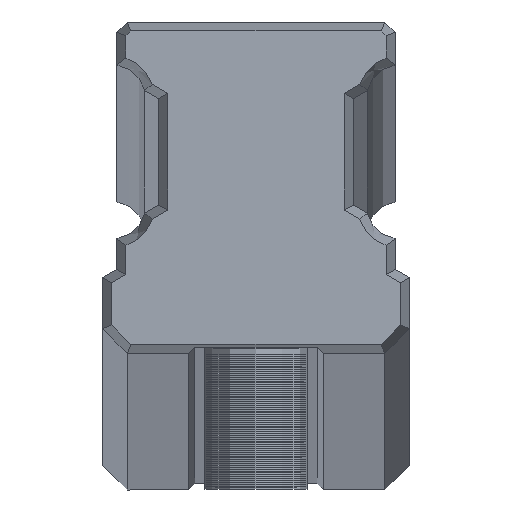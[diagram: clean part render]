
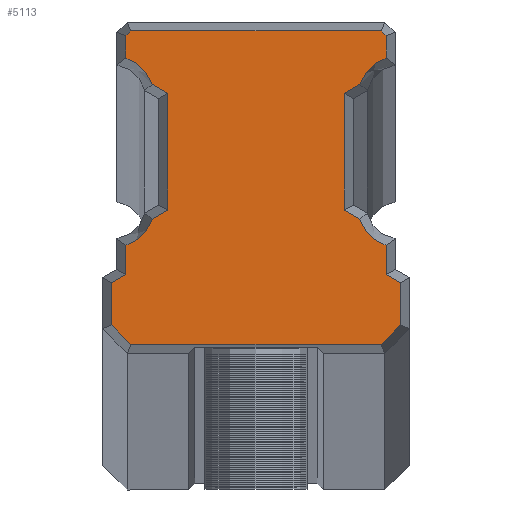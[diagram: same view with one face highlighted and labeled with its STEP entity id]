
A CAD part, top view. The second image highlights one B-rep face of the part: STEP entity #5113.
In plain terms, the highlighted planar face has unit normal (0, 0, 1).
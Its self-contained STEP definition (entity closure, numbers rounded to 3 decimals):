
#909=DIRECTION('',(1.,0.,0.));
#910=VECTOR('',#909,12.235);
#911=CARTESIAN_POINT('',(-6.117,0.441,0.));
#912=LINE('',#911,#910);
#913=DIRECTION('',(0.707,-0.707,0.));
#914=VECTOR('',#913,1.332);
#915=CARTESIAN_POINT('',(-7.059,1.383,0.));
#916=LINE('',#915,#914);
#917=DIRECTION('',(0.,-1.,0.));
#918=VECTOR('',#917,2.059);
#919=CARTESIAN_POINT('',(-7.059,3.441,0.));
#920=LINE('',#919,#918);
#921=DIRECTION('',(-0.866,-0.5,0.));
#922=VECTOR('',#921,0.808);
#923=CARTESIAN_POINT('',(-6.359,3.845,0.));
#924=LINE('',#923,#922);
#925=DIRECTION('',(0.,-1.,0.));
#926=VECTOR('',#925,1.426);
#927=CARTESIAN_POINT('',(-6.359,5.271,0.));
#928=LINE('',#927,#926);
#929=CARTESIAN_POINT('',(-7.046,7.246,0.));
#930=DIRECTION('',(0.,0.,-1.));
#931=DIRECTION('',(0.944,-0.331,0.));
#932=AXIS2_PLACEMENT_3D('',#929,#930,#931);
#934=DIRECTION('',(-0.866,-0.5,0.));
#935=VECTOR('',#934,0.882);
#936=CARTESIAN_POINT('',(-4.309,6.995,0.));
#937=LINE('',#936,#935);
#938=DIRECTION('',(0.,-1.,0.));
#939=VECTOR('',#938,5.709);
#940=CARTESIAN_POINT('',(-4.309,12.705,0.));
#941=LINE('',#940,#939);
#942=DIRECTION('',(0.866,-0.5,0.));
#943=VECTOR('',#942,0.882);
#944=CARTESIAN_POINT('',(-5.073,13.145,0.));
#945=LINE('',#944,#943);
#946=CARTESIAN_POINT('',(-7.046,12.454,0.));
#947=DIRECTION('',(0.,0.,-1.));
#948=DIRECTION('',(0.328,0.945,0.));
#949=AXIS2_PLACEMENT_3D('',#946,#947,#948);
#951=DIRECTION('',(0.,-1.,0.));
#952=VECTOR('',#951,1.094);
#953=CARTESIAN_POINT('',(-6.359,15.522,0.));
#954=LINE('',#953,#952);
#955=DIRECTION('',(-0.707,-0.707,0.));
#956=VECTOR('',#955,0.335);
#957=CARTESIAN_POINT('',(-6.122,15.759,0.));
#958=LINE('',#957,#956);
#959=DIRECTION('',(-1.,0.,0.));
#960=VECTOR('',#959,12.245);
#961=CARTESIAN_POINT('',(6.122,15.759,0.));
#962=LINE('',#961,#960);
#963=DIRECTION('',(-0.707,0.707,0.));
#964=VECTOR('',#963,0.335);
#965=CARTESIAN_POINT('',(6.359,15.522,0.));
#966=LINE('',#965,#964);
#967=DIRECTION('',(0.,1.,0.));
#968=VECTOR('',#967,1.094);
#969=CARTESIAN_POINT('',(6.359,14.429,0.));
#970=LINE('',#969,#968);
#971=CARTESIAN_POINT('',(7.046,12.454,0.));
#972=DIRECTION('',(0.,0.,-1.));
#973=DIRECTION('',(-0.944,0.331,0.));
#974=AXIS2_PLACEMENT_3D('',#971,#972,#973);
#976=DIRECTION('',(0.866,0.5,0.));
#977=VECTOR('',#976,0.882);
#978=CARTESIAN_POINT('',(4.309,12.705,0.));
#979=LINE('',#978,#977);
#980=DIRECTION('',(0.,1.,0.));
#981=VECTOR('',#980,5.709);
#982=CARTESIAN_POINT('',(4.309,6.995,0.));
#983=LINE('',#982,#981);
#984=DIRECTION('',(-0.866,0.5,0.));
#985=VECTOR('',#984,0.882);
#986=CARTESIAN_POINT('',(5.073,6.555,0.));
#987=LINE('',#986,#985);
#988=CARTESIAN_POINT('',(7.046,7.246,0.));
#989=DIRECTION('',(0.,0.,-1.));
#990=DIRECTION('',(-0.328,-0.945,0.));
#991=AXIS2_PLACEMENT_3D('',#988,#989,#990);
#993=DIRECTION('',(0.,1.,0.));
#994=VECTOR('',#993,1.426);
#995=CARTESIAN_POINT('',(6.359,3.845,0.));
#996=LINE('',#995,#994);
#997=DIRECTION('',(-0.866,0.5,0.));
#998=VECTOR('',#997,0.808);
#999=CARTESIAN_POINT('',(7.059,3.441,0.));
#1000=LINE('',#999,#998);
#1001=DIRECTION('',(0.,1.,0.));
#1002=VECTOR('',#1001,2.059);
#1003=CARTESIAN_POINT('',(7.059,1.383,0.));
#1004=LINE('',#1003,#1002);
#1005=DIRECTION('',(0.707,0.707,0.));
#1006=VECTOR('',#1005,1.332);
#1007=CARTESIAN_POINT('',(6.117,0.441,0.));
#1008=LINE('',#1007,#1006);
#3537=CARTESIAN_POINT('',(-6.117,0.441,0.));
#3538=CARTESIAN_POINT('',(6.117,0.441,0.));
#3539=VERTEX_POINT('',#3537);
#3540=VERTEX_POINT('',#3538);
#3541=CARTESIAN_POINT('',(7.059,1.383,0.));
#3542=VERTEX_POINT('',#3541);
#3543=CARTESIAN_POINT('',(7.059,3.441,0.));
#3544=VERTEX_POINT('',#3543);
#3545=CARTESIAN_POINT('',(6.359,3.845,0.));
#3546=VERTEX_POINT('',#3545);
#3547=CARTESIAN_POINT('',(6.359,5.271,0.));
#3548=VERTEX_POINT('',#3547);
#3549=CARTESIAN_POINT('',(5.073,6.555,0.));
#3550=VERTEX_POINT('',#3549);
#3551=CARTESIAN_POINT('',(4.309,6.995,0.));
#3552=VERTEX_POINT('',#3551);
#3553=CARTESIAN_POINT('',(4.309,12.705,0.));
#3554=VERTEX_POINT('',#3553);
#3555=CARTESIAN_POINT('',(5.073,13.145,0.));
#3556=VERTEX_POINT('',#3555);
#3557=CARTESIAN_POINT('',(6.359,14.429,0.));
#3558=VERTEX_POINT('',#3557);
#3559=CARTESIAN_POINT('',(6.359,15.522,0.));
#3560=VERTEX_POINT('',#3559);
#3561=CARTESIAN_POINT('',(6.122,15.759,0.));
#3562=VERTEX_POINT('',#3561);
#3563=CARTESIAN_POINT('',(-6.122,15.759,0.));
#3564=VERTEX_POINT('',#3563);
#3565=CARTESIAN_POINT('',(-6.359,15.522,0.));
#3566=VERTEX_POINT('',#3565);
#3567=CARTESIAN_POINT('',(-6.359,14.429,0.));
#3568=VERTEX_POINT('',#3567);
#3569=CARTESIAN_POINT('',(-5.073,13.145,0.));
#3570=VERTEX_POINT('',#3569);
#3571=CARTESIAN_POINT('',(-4.309,12.705,0.));
#3572=VERTEX_POINT('',#3571);
#3573=CARTESIAN_POINT('',(-4.309,6.995,0.));
#3574=VERTEX_POINT('',#3573);
#3575=CARTESIAN_POINT('',(-5.073,6.555,0.));
#3576=VERTEX_POINT('',#3575);
#3577=CARTESIAN_POINT('',(-6.359,5.271,0.));
#3578=VERTEX_POINT('',#3577);
#3579=CARTESIAN_POINT('',(-6.359,3.845,0.));
#3580=VERTEX_POINT('',#3579);
#3581=CARTESIAN_POINT('',(-7.059,3.441,0.));
#3582=VERTEX_POINT('',#3581);
#3583=CARTESIAN_POINT('',(-7.059,1.383,0.));
#3584=VERTEX_POINT('',#3583);
#5059=CARTESIAN_POINT('',(0.,0.,0.));
#5060=DIRECTION('',(0.,0.,1.));
#5061=DIRECTION('',(1.,0.,0.));
#5062=AXIS2_PLACEMENT_3D('',#5059,#5060,#5061);
#5063=PLANE('',#5062);
#5065=ORIENTED_EDGE('',*,*,#5064,.F.);
#5067=ORIENTED_EDGE('',*,*,#5066,.F.);
#5069=ORIENTED_EDGE('',*,*,#5068,.F.);
#5071=ORIENTED_EDGE('',*,*,#5070,.F.);
#5073=ORIENTED_EDGE('',*,*,#5072,.F.);
#5075=ORIENTED_EDGE('',*,*,#5074,.F.);
#5077=ORIENTED_EDGE('',*,*,#5076,.F.);
#5079=ORIENTED_EDGE('',*,*,#5078,.F.);
#5081=ORIENTED_EDGE('',*,*,#5080,.F.);
#5083=ORIENTED_EDGE('',*,*,#5082,.F.);
#5084=ORIENTED_EDGE('',*,*,#5049,.F.);
#5086=ORIENTED_EDGE('',*,*,#5085,.F.);
#5088=ORIENTED_EDGE('',*,*,#5087,.F.);
#5090=ORIENTED_EDGE('',*,*,#5089,.F.);
#5092=ORIENTED_EDGE('',*,*,#5091,.F.);
#5094=ORIENTED_EDGE('',*,*,#5093,.F.);
#5096=ORIENTED_EDGE('',*,*,#5095,.F.);
#5098=ORIENTED_EDGE('',*,*,#5097,.F.);
#5100=ORIENTED_EDGE('',*,*,#5099,.F.);
#5102=ORIENTED_EDGE('',*,*,#5101,.F.);
#5104=ORIENTED_EDGE('',*,*,#5103,.F.);
#5106=ORIENTED_EDGE('',*,*,#5105,.F.);
#5108=ORIENTED_EDGE('',*,*,#5107,.F.);
#5110=ORIENTED_EDGE('',*,*,#5109,.F.);
#5111=EDGE_LOOP('',(#5065,#5067,#5069,#5071,#5073,#5075,#5077,#5079,#5081,#5083,
#5084,#5086,#5088,#5090,#5092,#5094,#5096,#5098,#5100,#5102,#5104,#5106,#5108,
#5110));
#5112=FACE_OUTER_BOUND('',#5111,.F.);
#933=CIRCLE('',#932,2.091);
#950=CIRCLE('',#949,2.091);
#975=CIRCLE('',#974,2.091);
#992=CIRCLE('',#991,2.091);
#5049=EDGE_CURVE('',#3566,#3568,#954,.T.);
#5064=EDGE_CURVE('',#3539,#3540,#912,.T.);
#5066=EDGE_CURVE('',#3584,#3539,#916,.T.);
#5068=EDGE_CURVE('',#3582,#3584,#920,.T.);
#5070=EDGE_CURVE('',#3580,#3582,#924,.T.);
#5072=EDGE_CURVE('',#3578,#3580,#928,.T.);
#5074=EDGE_CURVE('',#3576,#3578,#933,.T.);
#5076=EDGE_CURVE('',#3574,#3576,#937,.T.);
#5078=EDGE_CURVE('',#3572,#3574,#941,.T.);
#5080=EDGE_CURVE('',#3570,#3572,#945,.T.);
#5082=EDGE_CURVE('',#3568,#3570,#950,.T.);
#5085=EDGE_CURVE('',#3564,#3566,#958,.T.);
#5087=EDGE_CURVE('',#3562,#3564,#962,.T.);
#5089=EDGE_CURVE('',#3560,#3562,#966,.T.);
#5091=EDGE_CURVE('',#3558,#3560,#970,.T.);
#5093=EDGE_CURVE('',#3556,#3558,#975,.T.);
#5095=EDGE_CURVE('',#3554,#3556,#979,.T.);
#5097=EDGE_CURVE('',#3552,#3554,#983,.T.);
#5099=EDGE_CURVE('',#3550,#3552,#987,.T.);
#5101=EDGE_CURVE('',#3548,#3550,#992,.T.);
#5103=EDGE_CURVE('',#3546,#3548,#996,.T.);
#5105=EDGE_CURVE('',#3544,#3546,#1000,.T.);
#5107=EDGE_CURVE('',#3542,#3544,#1004,.T.);
#5109=EDGE_CURVE('',#3540,#3542,#1008,.T.);
#5113=ADVANCED_FACE('',(#5112),#5063,.T.);
